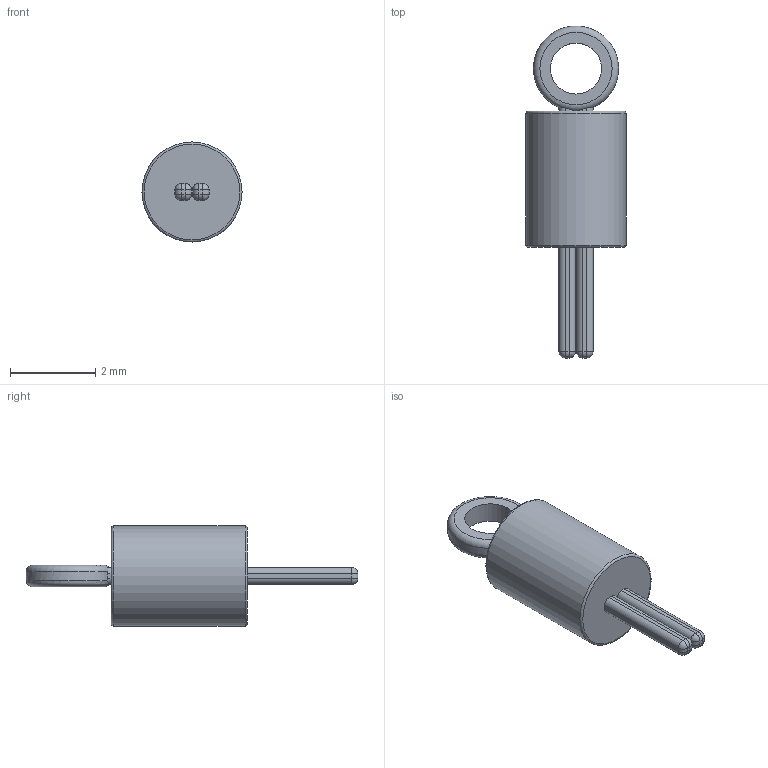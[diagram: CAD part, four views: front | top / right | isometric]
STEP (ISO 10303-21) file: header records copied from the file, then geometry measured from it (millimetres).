
FILE_DESCRIPTION(/* description */ (''),/* implementation_level */ '2;1');
FILE_NAME(/* name */ 'P:/RnD_Projecten/MPX_TPX4/PCB/3D/PCB Test Point v1.step',/* time_stamp */ '2020-07-29T13:52:32+02:00',/* author */ (''),/* organization */ (''),/* preprocessor_version */ 'ST-DEVELOPER v18.1',/* originating_system */ 'Autodesk Translation Framework v9.3.0.1241',/* authorisation */ '');
FILE_SCHEMA (('AUTOMOTIVE_DESIGN { 1 0 10303 214 3 1 1 }'));
Length unit declared in the file: millimetre
Products named in the file (1): PCB Test Point
Bounding box: 2.35 x 7.8 x 2.35 mm (x, y, z)
Volume: 15.5 mm3; surface area: 46.4 mm2
Topology: 1 solids, 1 shells, 63 faces, 153 edges, 94 vertices
Faces by surface type: cylinder 29, plane 22, sphere 8, torus 4
Full cylindrical faces by diameter (mm): 1.2 x1, 2.35 x1
Entity records: 1975 total; most frequent: CARTESIAN_POINT 428, DIRECTION 332, ORIENTED_EDGE 308, EDGE_CURVE 154, AXIS2_PLACEMENT_3D 130, VERTEX_POINT 94, LINE 72, VECTOR 72
